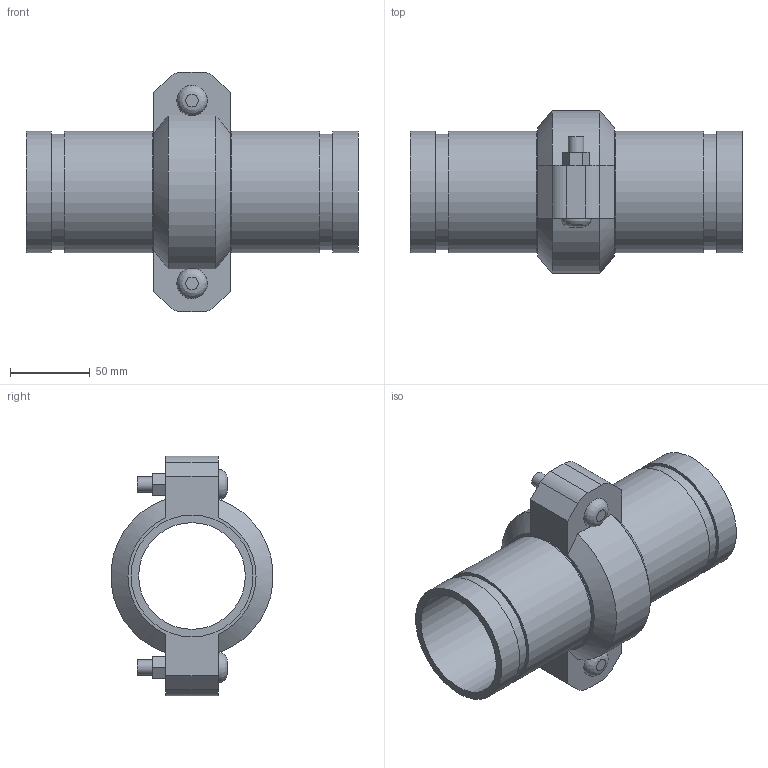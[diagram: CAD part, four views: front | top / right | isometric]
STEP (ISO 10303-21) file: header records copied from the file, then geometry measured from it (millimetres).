
FILE_DESCRIPTION(/* description */ ('VIC EXPANSION JOINT 1 COUPLING EXPANDED STYLE 155 (OGS)','CAx-IF Rec.Pracs.---Representation and Presentation of Product Manufacturing Information (PMI)---4.0---2014-10-13'),/* implementation_level */ '2;1');
FILE_NAME(/* name */ 'C:\Users\kkamble\AppData\Roaming\Autodesk\ApplicationPlugins\Victaulic.Temp\A694\Victaulic_IPS_Expansion Joint_Expanded_1 Coupling_Style 155 (OGS)_02.5 (76.1) (65).stp',/* time_stamp */ '2021-06-26T23:47:30+02:00',/* author */ ('kkamble'),/* organization */ ('Victaulic'),/* preprocessor_version */ 'ST-DEVELOPER v17.2',/* originating_system */ 'Autodesk Inventor 2019',/* authorisation */ '');
FILE_SCHEMA (('AP242_MANAGED_MODEL_BASED_3D_ENGINEERING_MIM_LF { 1 0 10303 442 1 1 4 }'));
Length unit declared in the file: inch
Products named in the file (3): 155-02.5 (76.1); Nipple-02.5 (76.1); 075-02.5 (76.1)
Assembly tree (3 placements, depth 2):
  155-02.5 (76.1)
    Nipple-02.5 (76.1)  x2
    075-02.5 (76.1)
Bounding box: 207.52 x 101.25 x 149.86 mm (x, y, z)
Volume: 427165.4 mm3; surface area: 145381.8 mm2
Topology: 3 solids, 5 shells, 81 faces, 197 edges, 140 vertices
Faces by surface type: plane 48, cylinder 27, cone 4, bspline 2
Full cylindrical faces by diameter (mm): 9.525 x4, 11.43 x2, 66.65 x2, 69.85 x1, 72.263 x4, 76.2 x8
Entity records: 2351 total; most frequent: CARTESIAN_POINT 452, DIRECTION 371, ORIENTED_EDGE 334, EDGE_CURVE 167, AXIS2_PLACEMENT_3D 141, VERTEX_POINT 116, LINE 89, VECTOR 89
